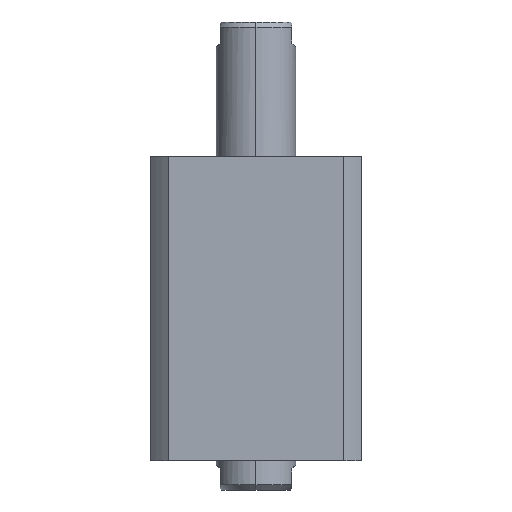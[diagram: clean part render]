
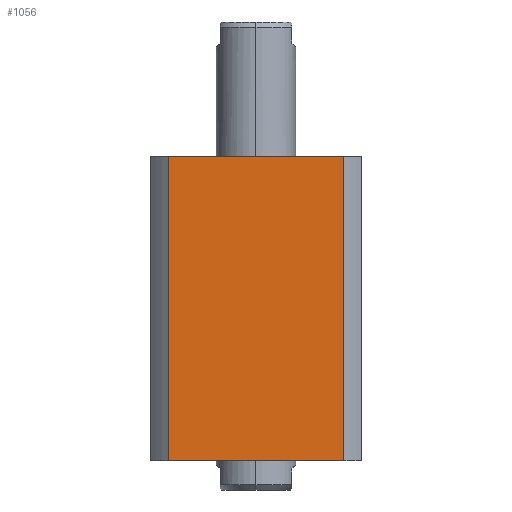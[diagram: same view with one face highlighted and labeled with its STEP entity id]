
A CAD part, left-side view. The second image highlights one B-rep face of the part: STEP entity #1056.
In plain terms, the highlighted planar face has unit normal (-1, 0, 0).
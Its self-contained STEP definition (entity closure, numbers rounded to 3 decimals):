
#317 = DIRECTION ( 'NONE',  ( 1., 0., 0. ) ) ;
#320 = CARTESIAN_POINT ( 'NONE',  ( -40., -33.226, 57.5 ) ) ;
#470 = LINE ( 'NONE', #3563, #8969 ) ;
#666 = DIRECTION ( 'NONE',  ( 0., -1., 0. ) ) ;
#837 = CARTESIAN_POINT ( 'NONE',  ( -40., 33.226, 57.5 ) ) ;
#1056 = ADVANCED_FACE ( 'NONE', ( #5955 ), #5637, .F. ) ;
#1083 = DIRECTION ( 'NONE',  ( 0., 1., 0. ) ) ;
#1196 = LINE ( 'NONE', #837, #2979 ) ;
#2246 = ORIENTED_EDGE ( 'NONE', *, *, #6738, .T. ) ;
#2251 = LINE ( 'NONE', #3537, #9079 ) ;
#2979 = VECTOR ( 'NONE', #8517, 1000. ) ;
#3537 = CARTESIAN_POINT ( 'NONE',  ( -40., -33.226, 57.5 ) ) ;
#3563 = CARTESIAN_POINT ( 'NONE',  ( -40., 33.226, -57.5 ) ) ;
#4315 = VERTEX_POINT ( 'NONE', #320 ) ;
#4329 = VERTEX_POINT ( 'NONE', #4883 ) ;
#4711 = AXIS2_PLACEMENT_3D ( 'NONE', #6471, #317, #1083 ) ;
#4883 = CARTESIAN_POINT ( 'NONE',  ( -40., 33.226, 57.5 ) ) ;
#5012 = DIRECTION ( 'NONE',  ( 0., -1., 0. ) ) ;
#5182 = CARTESIAN_POINT ( 'NONE',  ( -40., 33.226, 57.5 ) ) ;
#5278 = EDGE_CURVE ( 'NONE', #4329, #6809, #1196, .T. ) ;
#5637 = PLANE ( 'NONE',  #4711 ) ;
#5955 = FACE_OUTER_BOUND ( 'NONE', #8470, .T. ) ;
#6373 = LINE ( 'NONE', #5182, #8942 ) ;
#6471 = CARTESIAN_POINT ( 'NONE',  ( -40., 33.226, 57.5 ) ) ;
#6507 = ORIENTED_EDGE ( 'NONE', *, *, #6820, .F. ) ;
#6668 = ORIENTED_EDGE ( 'NONE', *, *, #5278, .T. ) ;
#6738 = EDGE_CURVE ( 'NONE', #6809, #8959, #470, .T. ) ;
#6809 = VERTEX_POINT ( 'NONE', #7330 ) ;
#6820 = EDGE_CURVE ( 'NONE', #4315, #8959, #2251, .T. ) ;
#7330 = CARTESIAN_POINT ( 'NONE',  ( -40., 33.226, -57.5 ) ) ;
#8193 = EDGE_CURVE ( 'NONE', #4329, #4315, #6373, .T. ) ;
#8470 = EDGE_LOOP ( 'NONE', ( #2246, #6507, #8659, #6668 ) ) ;
#8517 = DIRECTION ( 'NONE',  ( 0., 0., -1. ) ) ;
#8659 = ORIENTED_EDGE ( 'NONE', *, *, #8193, .F. ) ;
#8825 = CARTESIAN_POINT ( 'NONE',  ( -40., -33.226, -57.5 ) ) ;
#8942 = VECTOR ( 'NONE', #666, 1000. ) ;
#8959 = VERTEX_POINT ( 'NONE', #8825 ) ;
#8969 = VECTOR ( 'NONE', #5012, 1000. ) ;
#9079 = VECTOR ( 'NONE', #9584, 1000. ) ;
#9584 = DIRECTION ( 'NONE',  ( 0., 0., -1. ) ) ;
